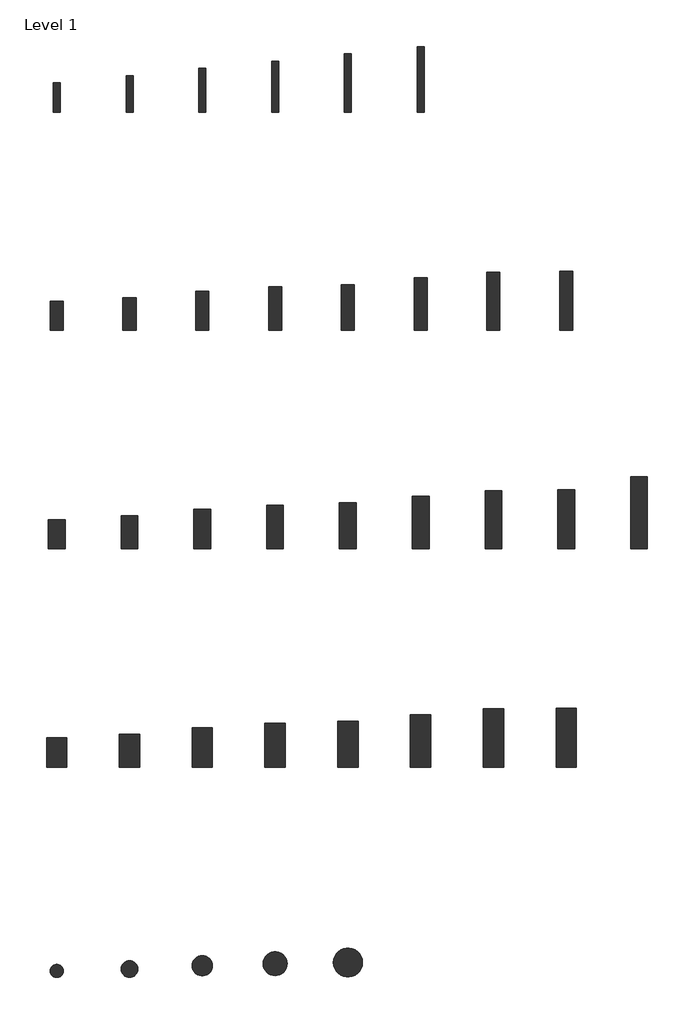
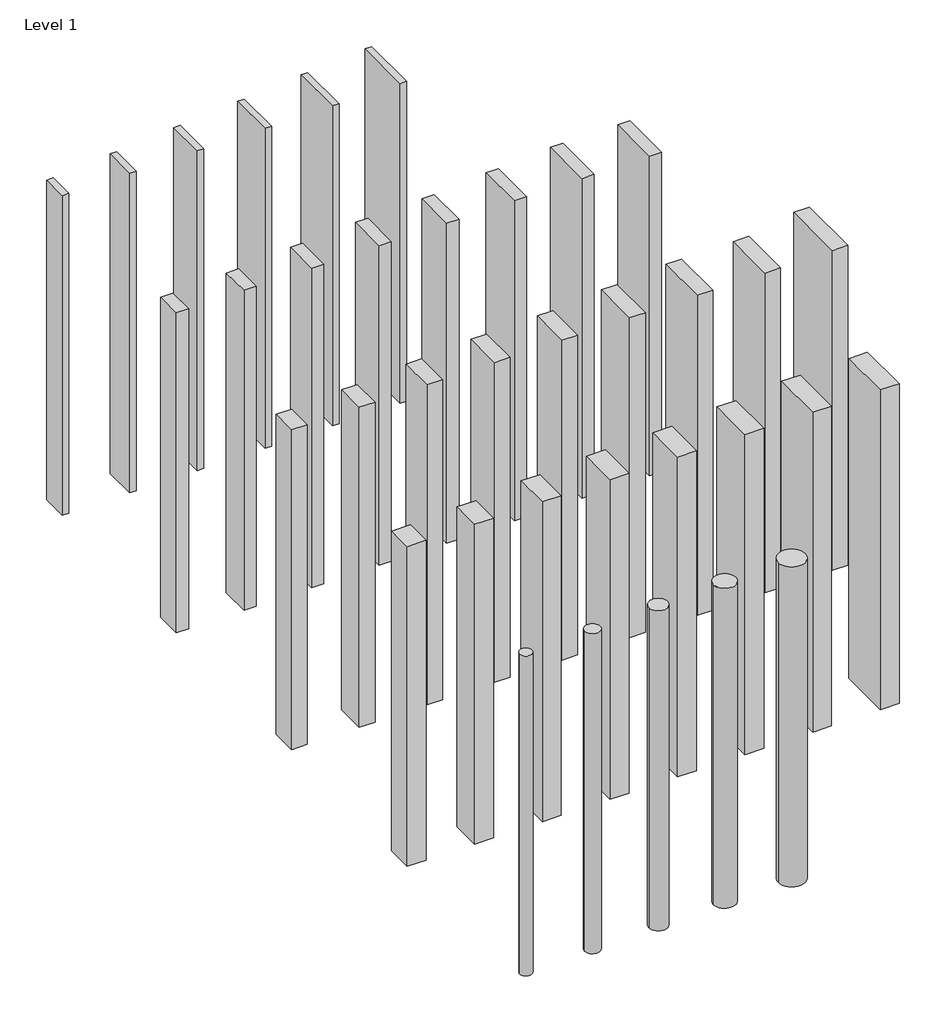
# One storey: 36 columns.
"""IFC4 building model written with IfcOpenShell, lengths in millimetres."""

from ifc_helpers import new_model, si_unit, point, frame_2d, origin, origin_with_axes, place, context, project, spatial, polyline, circle_curve, trimmed, segment, composite_curve, outline, extrude, element, save

model = new_model("IFC4")

# Units and contexts
model_context = context("Model", 3, world=origin())
ifc_project = project(units=[si_unit("LENGTHUNIT", "METRE", prefix="MILLI")], contexts=[model_context])

# Site, building, storey
site = spatial("IfcSite", under=ifc_project)
building = spatial("IfcBuilding", under=site)
storey = spatial("IfcBuildingStorey", under=building, Name="Level 1", Elevation=0.0)

# Columns
placement = place(None, origin())
element("IfcColumn", 1, ObjectType="Hunton - CLT-Beam Gluelam Cylinder : 115x115 GL30c", at=placement, inside=storey, context=model_context, shape_type="SweptSolid", body=[
    extrude(outline(composite_curve([segment(trimmed(circle_curve(frame_2d((-2997.3155264, -4284.227498)), 57.5), [point((-3054.8155264, -4284.227498))], [point((-2939.8155264, -4284.227498))], False, "CARTESIAN"), True, "CONTINUOUS"), segment(trimmed(circle_curve(frame_2d((-2997.3155264, -4284.227498)), 57.5), [point((-2939.8155264, -4284.227498))], [point((-3054.8155264, -4284.227498))], False, "CARTESIAN"), True, "CONTINUOUS")], self_intersect=False)), origin_with_axes(), (0.0, 0.0, 1.0), 2500.0),
])
element("IfcColumn", 2, ObjectType="Hunton - CLT-Beam Gluelam 115 : 115x200 GL30c", at=placement, inside=storey, context=model_context, shape_type="SweptSolid", body=[
    extrude(outline(polyline([(-3439.8155264, -1196.727498), (-3439.8155264, -1396.727498), (-3554.8155264, -1396.727498), (-3554.8155264, -1196.727498), (-3439.8155264, -1196.727498)])), origin_with_axes(), (0.0, 0.0, 1.0), 2500.0),
])
element("IfcColumn", 3, ObjectType="Hunton - CLT-Beam Gluelam 115 : 115x225 GL30c", at=placement, inside=storey, context=model_context, shape_type="SweptSolid", body=[
    extrude(outline(polyline([(-2939.8155264, -1171.727498), (-2939.8155264, -1396.727498), (-3054.8155264, -1396.727498), (-3054.8155264, -1171.727498), (-2939.8155264, -1171.727498)])), origin_with_axes(), (0.0, 0.0, 1.0), 2500.0),
])
element("IfcColumn", 4, ObjectType="Hunton - CLT-Beam Gluelam 115 : 115x270 GL30c", at=placement, inside=storey, context=model_context, shape_type="SweptSolid", body=[
    extrude(outline(polyline([(-2439.8155264, -1126.727498), (-2439.8155264, -1396.727498), (-2554.8155264, -1396.727498), (-2554.8155264, -1126.727498), (-2439.8155264, -1126.727498)])), origin_with_axes(), (0.0, 0.0, 1.0), 2500.0),
])
element("IfcColumn", 5, ObjectType="Hunton - CLT-Beam Gluelam 115 : 115x300 GL30c", at=placement, inside=storey, context=model_context, shape_type="SweptSolid", body=[
    extrude(outline(polyline([(-1939.8155264, -1096.727498), (-1939.8155264, -1396.727498), (-2054.8155264, -1396.727498), (-2054.8155264, -1096.727498), (-1939.8155264, -1096.727498)])), origin_with_axes(), (0.0, 0.0, 1.0), 2500.0),
])
element("IfcColumn", 6, ObjectType="Hunton - CLT-Beam Gluelam 115 : 115x315 GL30c", at=placement, inside=storey, context=model_context, shape_type="SweptSolid", body=[
    extrude(outline(polyline([(-1439.8155264, -1081.727498), (-1439.8155264, -1396.727498), (-1554.8155264, -1396.727498), (-1554.8155264, -1081.727498), (-1439.8155264, -1081.727498)])), origin_with_axes(), (0.0, 0.0, 1.0), 2500.0),
])
element("IfcColumn", 7, ObjectType="Hunton - CLT-Beam Gluelam 115 : 115x360 GL30c", at=placement, inside=storey, context=model_context, shape_type="SweptSolid", body=[
    extrude(outline(polyline([(-939.8155264, -1036.727498), (-939.8155264, -1396.727498), (-1054.8155264, -1396.727498), (-1054.8155264, -1036.727498), (-939.8155264, -1036.727498)])), origin_with_axes(), (0.0, 0.0, 1.0), 2500.0),
])
element("IfcColumn", 8, ObjectType="Hunton - CLT-Beam Gluelam 115 : 115x400 GL30c", at=placement, inside=storey, context=model_context, shape_type="SweptSolid", body=[
    extrude(outline(polyline([(-439.8155264, -996.727498), (-439.8155264, -1396.727498), (-554.8155264, -1396.727498), (-554.8155264, -996.727498), (-439.8155264, -996.727498)])), origin_with_axes(), (0.0, 0.0, 1.0), 2500.0),
])
element("IfcColumn", 9, ObjectType="Hunton - CLT-Beam Gluelam 115 : 115x405 GL30c", at=placement, inside=storey, context=model_context, shape_type="SweptSolid", body=[
    extrude(outline(polyline([(60.1844736, -991.727498), (60.1844736, -1396.727498), (-54.8155264, -1396.727498), (-54.8155264, -991.727498), (60.1844736, -991.727498)])), origin_with_axes(), (0.0, 0.0, 1.0), 2500.0),
])
element("IfcColumn", 10, ObjectType="Hunton - CLT-Beam Gluelam 115 : 115x495 GL30c", at=placement, inside=storey, context=model_context, shape_type="SweptSolid", body=[
    extrude(outline(polyline([(560.1844736, -901.727498), (560.1844736, -1396.727498), (445.1844736, -1396.727498), (445.1844736, -901.727498), (560.1844736, -901.727498)])), origin_with_axes(), (0.0, 0.0, 1.0), 2500.0),
])
element("IfcColumn", 11, ObjectType="Hunton - CLT-Beam Gluelam Cylinder : 140x140 GL30c", at=placement, inside=storey, context=model_context, shape_type="SweptSolid", body=[
    extrude(outline(composite_curve([segment(trimmed(circle_curve(frame_2d((-2497.3155264, -4261.727498)), 70.0), [point((-2567.3155264, -4261.727498))], [point((-2427.3155264, -4261.727498))], False, "CARTESIAN"), True, "CONTINUOUS"), segment(trimmed(circle_curve(frame_2d((-2497.3155264, -4261.727498)), 70.0), [point((-2427.3155264, -4261.727498))], [point((-2567.3155264, -4261.727498))], False, "CARTESIAN"), True, "CONTINUOUS")], self_intersect=False)), origin_with_axes(), (0.0, 0.0, 1.0), 2500.0),
])
element("IfcColumn", 12, ObjectType="Hunton - CLT-Beam Gluelam 140 : 140x200 GL30c", at=placement, inside=storey, context=model_context, shape_type="SweptSolid", body=[
    extrude(outline(polyline([(-3427.3155264, -2696.727498), (-3427.3155264, -2896.727498), (-3567.3155264, -2896.727498), (-3567.3155264, -2696.727498), (-3427.3155264, -2696.727498)])), origin_with_axes(), (0.0, 0.0, 1.0), 2500.0),
])
element("IfcColumn", 13, ObjectType="Hunton - CLT-Beam Gluelam 140 : 140x225 GL30c", at=placement, inside=storey, context=model_context, shape_type="SweptSolid", body=[
    extrude(outline(polyline([(-2927.3155264, -2671.727498), (-2927.3155264, -2896.727498), (-3067.3155264, -2896.727498), (-3067.3155264, -2671.727498), (-2927.3155264, -2671.727498)])), origin_with_axes(), (0.0, 0.0, 1.0), 2500.0),
])
element("IfcColumn", 14, ObjectType="Hunton - CLT-Beam Gluelam 140 : 140x270 GL30c", at=placement, inside=storey, context=model_context, shape_type="SweptSolid", body=[
    extrude(outline(polyline([(-2427.3155264, -2626.727498), (-2427.3155264, -2896.727498), (-2567.3155264, -2896.727498), (-2567.3155264, -2626.727498), (-2427.3155264, -2626.727498)])), origin_with_axes(), (0.0, 0.0, 1.0), 2500.0),
])
element("IfcColumn", 15, ObjectType="Hunton - CLT-Beam Gluelam 140 : 140x300 GL30c", at=placement, inside=storey, context=model_context, shape_type="SweptSolid", body=[
    extrude(outline(polyline([(-1927.3155264, -2596.727498), (-1927.3155264, -2896.727498), (-2067.3155264, -2896.727498), (-2067.3155264, -2596.727498), (-1927.3155264, -2596.727498)])), origin_with_axes(), (0.0, 0.0, 1.0), 2500.0),
])
element("IfcColumn", 16, ObjectType="Hunton - CLT-Beam Gluelam 140 : 140x315 GL30c", at=placement, inside=storey, context=model_context, shape_type="SweptSolid", body=[
    extrude(outline(polyline([(-1427.3155264, -2581.727498), (-1427.3155264, -2896.727498), (-1567.3155264, -2896.727498), (-1567.3155264, -2581.727498), (-1427.3155264, -2581.727498)])), origin_with_axes(), (0.0, 0.0, 1.0), 2500.0),
])
element("IfcColumn", 17, ObjectType="Hunton - CLT-Beam Gluelam 140 : 140x360 GL30c", at=placement, inside=storey, context=model_context, shape_type="SweptSolid", body=[
    extrude(outline(polyline([(-927.3155264, -2536.727498), (-927.3155264, -2896.727498), (-1067.3155264, -2896.727498), (-1067.3155264, -2536.727498), (-927.3155264, -2536.727498)])), origin_with_axes(), (0.0, 0.0, 1.0), 2500.0),
])
element("IfcColumn", 18, ObjectType="Hunton - CLT-Beam Gluelam 140 : 140x400 GL30c", at=placement, inside=storey, context=model_context, shape_type="SweptSolid", body=[
    extrude(outline(polyline([(-427.3155264, -2496.727498), (-427.3155264, -2896.727498), (-567.3155264, -2896.727498), (-567.3155264, -2496.727498), (-427.3155264, -2496.727498)])), origin_with_axes(), (0.0, 0.0, 1.0), 2500.0),
])
element("IfcColumn", 19, ObjectType="Hunton - CLT-Beam Gluelam 140 : 140x405 GL30c", at=placement, inside=storey, context=model_context, shape_type="SweptSolid", body=[
    extrude(outline(polyline([(72.6844736, -2491.727498), (72.6844736, -2896.727498), (-67.3155264, -2896.727498), (-67.3155264, -2491.727498), (72.6844736, -2491.727498)])), origin_with_axes(), (0.0, 0.0, 1.0), 2500.0),
])
element("IfcColumn", 20, ObjectType="Hunton - CLT-Beam Gluelam Cylinder : 165x165 GL30c", at=placement, inside=storey, context=model_context, shape_type="SweptSolid", body=[
    extrude(outline(composite_curve([segment(trimmed(circle_curve(frame_2d((-1997.3155264, -4246.727498)), 82.5), [point((-2079.8155264, -4246.727498))], [point((-1914.8155264, -4246.727498))], False, "CARTESIAN"), True, "CONTINUOUS"), segment(trimmed(circle_curve(frame_2d((-1997.3155264, -4246.727498)), 82.5), [point((-1914.8155264, -4246.727498))], [point((-2079.8155264, -4246.727498))], False, "CARTESIAN"), True, "CONTINUOUS")], self_intersect=False)), origin_with_axes(), (0.0, 0.0, 1.0), 2500.0),
])
element("IfcColumn", 21, ObjectType="Hunton - CLT-Beam Gluelam Cylinder : 200x200 GL30c", at=placement, inside=storey, context=model_context, shape_type="SweptSolid", body=[
    extrude(outline(composite_curve([segment(trimmed(circle_curve(frame_2d((-1497.3155264, -4239.227498)), 100.0), [point((-1597.3155264, -4239.227498))], [point((-1397.3155264, -4239.227498))], False, "CARTESIAN"), True, "CONTINUOUS"), segment(trimmed(circle_curve(frame_2d((-1497.3155264, -4239.227498)), 100.0), [point((-1397.3155264, -4239.227498))], [point((-1597.3155264, -4239.227498))], False, "CARTESIAN"), True, "CONTINUOUS")], self_intersect=False)), origin_with_axes(), (0.0, 0.0, 1.0), 2500.0),
])
element("IfcColumn", 22, ObjectType="Hunton - CLT-Beam Gluelam 48 : 48x200 GL28Cs", at=placement, inside=storey, context=model_context, shape_type="SweptSolid", body=[
    extrude(outline(polyline([(-3473.3155264, 1803.272502), (-3473.3155264, 1603.272502), (-3521.3155264, 1603.272502), (-3521.3155264, 1803.272502), (-3473.3155264, 1803.272502)])), origin_with_axes(), (0.0, 0.0, 1.0), 2500.0),
])
element("IfcColumn", 23, ObjectType="Hunton - CLT-Beam Gluelam 48 : 48x250 GL28Cs", at=placement, inside=storey, context=model_context, shape_type="SweptSolid", body=[
    extrude(outline(polyline([(-2973.3155264, 1853.272502), (-2973.3155264, 1603.272502), (-3021.3155264, 1603.272502), (-3021.3155264, 1853.272502), (-2973.3155264, 1853.272502)])), origin_with_axes(), (0.0, 0.0, 1.0), 2500.0),
])
element("IfcColumn", 24, ObjectType="Hunton - CLT-Beam Gluelam 48 : 48x300 GL28Cs", at=placement, inside=storey, context=model_context, shape_type="SweptSolid", body=[
    extrude(outline(polyline([(-2473.3155264, 1903.272502), (-2473.3155264, 1603.272502), (-2521.3155264, 1603.272502), (-2521.3155264, 1903.272502), (-2473.3155264, 1903.272502)])), origin_with_axes(), (0.0, 0.0, 1.0), 2500.0),
])
element("IfcColumn", 25, ObjectType="Hunton - CLT-Beam Gluelam 48 : 48x350 GL28Cs", at=placement, inside=storey, context=model_context, shape_type="SweptSolid", body=[
    extrude(outline(polyline([(-1973.3155264, 1953.272502), (-1973.3155264, 1603.272502), (-2021.3155264, 1603.272502), (-2021.3155264, 1953.272502), (-1973.3155264, 1953.272502)])), origin_with_axes(), (0.0, 0.0, 1.0), 2500.0),
])
element("IfcColumn", 26, ObjectType="Hunton - CLT-Beam Gluelam 48 : 48x400 GL28Cs", at=placement, inside=storey, context=model_context, shape_type="SweptSolid", body=[
    extrude(outline(polyline([(-1473.3155264, 2003.272502), (-1473.3155264, 1603.272502), (-1521.3155264, 1603.272502), (-1521.3155264, 2003.272502), (-1473.3155264, 2003.272502)])), origin_with_axes(), (0.0, 0.0, 1.0), 2500.0),
])
element("IfcColumn", 27, ObjectType="Hunton - CLT-Beam Gluelam 48 : 48x450 GL28Cs", at=placement, inside=storey, context=model_context, shape_type="SweptSolid", body=[
    extrude(outline(polyline([(-973.3155264, 2053.272502), (-973.3155264, 1603.272502), (-1021.3155264, 1603.272502), (-1021.3155264, 2053.272502), (-973.3155264, 2053.272502)])), origin_with_axes(), (0.0, 0.0, 1.0), 2500.0),
])
element("IfcColumn", 28, ObjectType="Hunton - CLT-Beam Gluelam 90 : 90x200 GL30c", at=placement, inside=storey, context=model_context, shape_type="SweptSolid", body=[
    extrude(outline(polyline([(-3452.3155264, 303.272502), (-3452.3155264, 103.272502), (-3542.3155264, 103.272502), (-3542.3155264, 303.272502), (-3452.3155264, 303.272502)])), origin_with_axes(), (0.0, 0.0, 1.0), 2500.0),
])
element("IfcColumn", 29, ObjectType="Hunton - CLT-Beam Gluelam 90 : 90x225 GL30c", at=placement, inside=storey, context=model_context, shape_type="SweptSolid", body=[
    extrude(outline(polyline([(-2952.3155264, 328.272502), (-2952.3155264, 103.272502), (-3042.3155264, 103.272502), (-3042.3155264, 328.272502), (-2952.3155264, 328.272502)])), origin_with_axes(), (0.0, 0.0, 1.0), 2500.0),
])
element("IfcColumn", 30, ObjectType="Hunton - CLT-Beam Gluelam 90 : 90x270 GL30c", at=placement, inside=storey, context=model_context, shape_type="SweptSolid", body=[
    extrude(outline(polyline([(-2452.3155264, 373.272502), (-2452.3155264, 103.272502), (-2542.3155264, 103.272502), (-2542.3155264, 373.272502), (-2452.3155264, 373.272502)])), origin_with_axes(), (0.0, 0.0, 1.0), 2500.0),
])
element("IfcColumn", 31, ObjectType="Hunton - CLT-Beam Gluelam 90 : 90x300 GL30c", at=placement, inside=storey, context=model_context, shape_type="SweptSolid", body=[
    extrude(outline(polyline([(-1952.3155264, 403.272502), (-1952.3155264, 103.272502), (-2042.3155264, 103.272502), (-2042.3155264, 403.272502), (-1952.3155264, 403.272502)])), origin_with_axes(), (0.0, 0.0, 1.0), 2500.0),
])
element("IfcColumn", 32, ObjectType="Hunton - CLT-Beam Gluelam 90 : 90x315 GL30c", at=placement, inside=storey, context=model_context, shape_type="SweptSolid", body=[
    extrude(outline(polyline([(-1452.3155264, 418.272502), (-1452.3155264, 103.272502), (-1542.3155264, 103.272502), (-1542.3155264, 418.272502), (-1452.3155264, 418.272502)])), origin_with_axes(), (0.0, 0.0, 1.0), 2500.0),
])
element("IfcColumn", 33, ObjectType="Hunton - CLT-Beam Gluelam 90 : 90x360 GL30c", at=placement, inside=storey, context=model_context, shape_type="SweptSolid", body=[
    extrude(outline(polyline([(-952.3155264, 463.272502), (-952.3155264, 103.272502), (-1042.3155264, 103.272502), (-1042.3155264, 463.272502), (-952.3155264, 463.272502)])), origin_with_axes(), (0.0, 0.0, 1.0), 2500.0),
])
element("IfcColumn", 34, ObjectType="Hunton - CLT-Beam Gluelam 90 : 90x400 GL30c", at=placement, inside=storey, context=model_context, shape_type="SweptSolid", body=[
    extrude(outline(polyline([(-452.3155264, 503.272502), (-452.3155264, 103.272502), (-542.3155264, 103.272502), (-542.3155264, 503.272502), (-452.3155264, 503.272502)])), origin_with_axes(), (0.0, 0.0, 1.0), 2500.0),
])
element("IfcColumn", 35, ObjectType="Hunton - CLT-Beam Gluelam 90 : 90x405 GL30c", at=placement, inside=storey, context=model_context, shape_type="SweptSolid", body=[
    extrude(outline(polyline([(47.6844736, 508.272502), (47.6844736, 103.272502), (-42.3155264, 103.272502), (-42.3155264, 508.272502), (47.6844736, 508.272502)])), origin_with_axes(), (0.0, 0.0, 1.0), 2500.0),
])
element("IfcColumn", 36, ObjectType="Hunton - CLT-Beam Gluelam Cylinder : 90x90 GL30c", at=placement, inside=storey, context=model_context, shape_type="SweptSolid", body=[
    extrude(outline(composite_curve([segment(trimmed(circle_curve(frame_2d((-3497.3155264, -4296.727498)), 45.0), [point((-3542.3155264, -4296.727498))], [point((-3452.3155264, -4296.727498))], False, "CARTESIAN"), True, "CONTINUOUS"), segment(trimmed(circle_curve(frame_2d((-3497.3155264, -4296.727498)), 45.0), [point((-3452.3155264, -4296.727498))], [point((-3542.3155264, -4296.727498))], False, "CARTESIAN"), True, "CONTINUOUS")], self_intersect=False)), origin_with_axes(), (0.0, 0.0, 1.0), 2500.0),
])

save(model, "model.ifc")
